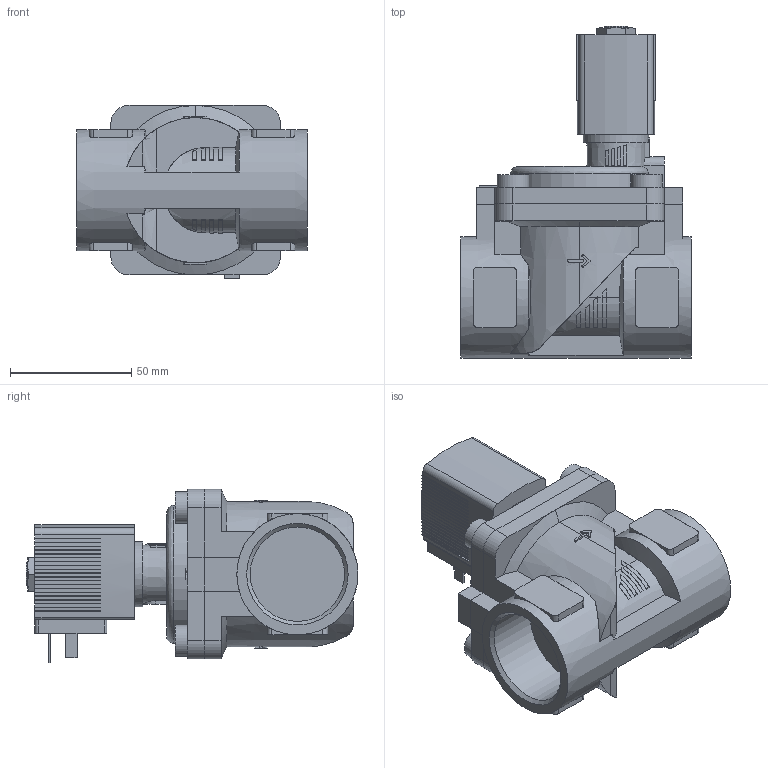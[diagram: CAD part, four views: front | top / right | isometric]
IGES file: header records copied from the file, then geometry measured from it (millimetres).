
Start section: Data from Parasolid IGES Translator 26.0.171, Copyright(c) 2006 Siemens PLM Software. All Rights Reserved.
Global section: file name: 6281-274729-2_2-Way_Solenoid_Valve__Servo-assisted__General_Purpose.igs; native system: By Siemens PLM Incorporated; preprocessor: XPlus GENERIC/IGES 26.0.171; author: Noname; organization: Noname; date: 20240827.142849; units: millimetre
Bounding box: 95 x 137 x 71.5 mm (x, y, z)
Surface area: 61006.9 mm2 (no closed solid volume)
Topology: 0 solids, 0 shells, 559 faces, 3096 edges, 3077 vertices
Faces by surface type: extrusion 441, revolution 118
